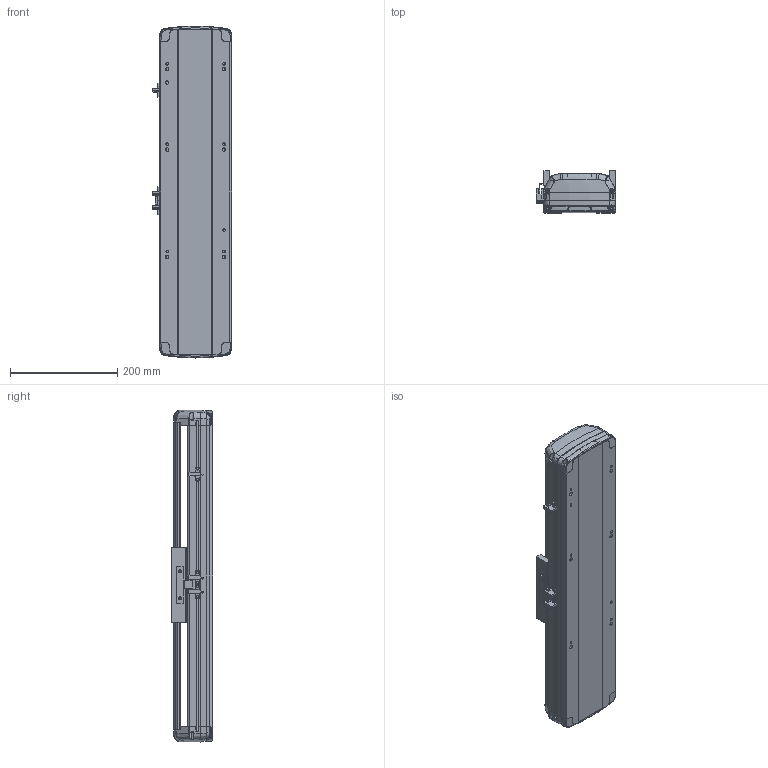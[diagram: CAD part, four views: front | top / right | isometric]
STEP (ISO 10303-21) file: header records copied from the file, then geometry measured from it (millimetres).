
FILE_DESCRIPTION (( 'STEP AP214' ), '1' );
FILE_NAME ('RTH14-XX-200-B-M20B-C4.STEP', '2025-10-24T08:26:57', ( 'Microsoft' ), ( 'Microsoft' ), 'SwSTEP 2.0', 'SolidWorks 2018', '' );
FILE_SCHEMA (( 'AUTOMOTIVE_DESIGN' ));
Length unit declared in the file: millimetre
Products named in the file (7): N_RTH13-L-012感应片（外置）^RTH14-XX-XX-B-M20B-C4; N_OMRON EE-SX672 传感器^RTH14-XX-XX-B-M20B-C4; RTH14-XX-200-B-M20B-C4; N_RTH14-B-011PB菁釱^RTH14-XX-XX-B-M20B-C4; N_RTH14-GY-001P^RTH14-XX-XX-B-M20B-C4; N_RTH14-B-007B奻裔^RTH14-XX-XX-B-M20B-C4; N_RTH14-R-004-SFSR16賑釱^RTH14-XX-XX-B-M20B-C4
Assembly tree (9 placements, depth 2):
  RTH14-XX-200-B-M20B-C4
    N_RTH14-B-011PB菁釱^RTH14-XX-XX-B-M20B-C4
    N_RTH14-B-007B奻裔^RTH14-XX-XX-B-M20B-C4
    N_RTH13-L-012感应片（外置）^RTH14-XX-XX-B-M20B-C4
    N_OMRON EE-SX672 传感器^RTH14-XX-XX-B-M20B-C4  x3
    N_RTH14-R-004-SFSR16賑釱^RTH14-XX-XX-B-M20B-C4
    N_RTH14-GY-001P^RTH14-XX-XX-B-M20B-C4  x2
Bounding box: 148.5 x 78.03 x 618.99 mm (x, y, z)
Volume: 2706080.9 mm3; surface area: 637251.8 mm2
Topology: 9 solids, 9 shells, 1882 faces, 5296 edges, 3446 vertices
Faces by surface type: plane 971, bspline 450, cylinder 397, cone 56, torus 8
Entity records: 45288 total; most frequent: CARTESIAN_POINT 20538, ORIENTED_EDGE 5608, DIRECTION 4047, EDGE_CURVE 2804, VERTEX_POINT 1832, LINE 1595, VECTOR 1595, AXIS2_PLACEMENT_3D 1226
